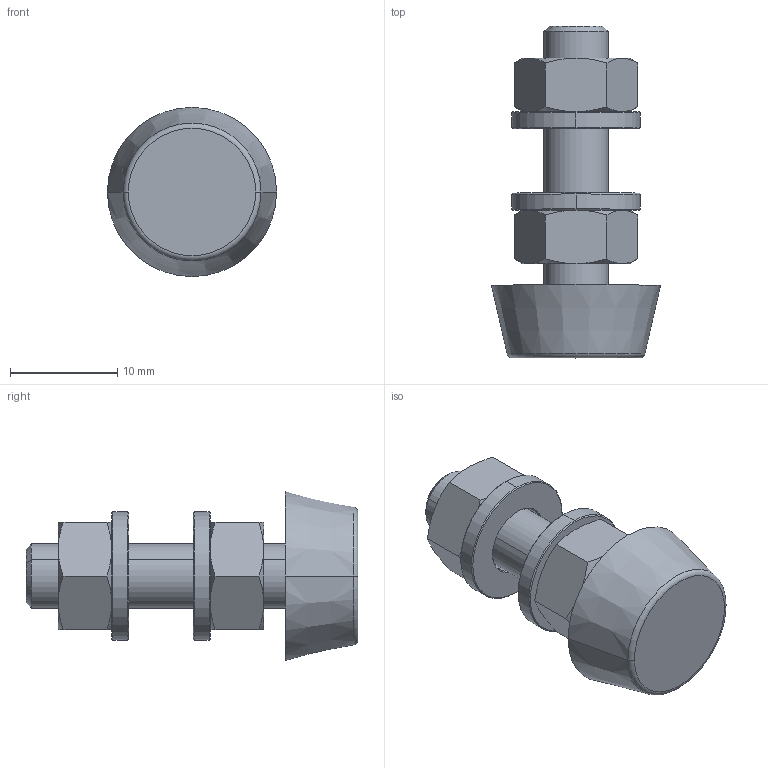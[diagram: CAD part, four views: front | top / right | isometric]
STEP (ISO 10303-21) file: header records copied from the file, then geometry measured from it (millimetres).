
FILE_DESCRIPTION (( 'STEP AP203' ), '1' );
FILE_NAME ('BAP-M6.STEP', '2012-11-29T15:42:09', ( 'Ricardo' ), ( '' ), 'SwSTEP 2.0', 'SolidWorks 2012', '' );
FILE_SCHEMA (( 'CONFIG_CONTROL_DESIGN' ));
Length unit declared in the file: millimetre
Products named in the file (5): 11.50001; BAP-M6; 12.50032; 20.20042; 17.50001
Assembly tree (6 placements, depth 2):
  BAP-M6
    20.20042
    12.50032
    11.50001  x2
    17.50001  x2
Bounding box: 15.8 x 31 x 15.8 mm (x, y, z)
Volume: 2711 mm3; surface area: 2740.9 mm2
Topology: 6 solids, 6 shells, 106 faces, 220 edges, 128 vertices
Faces by surface type: cone 54, plane 32, cylinder 14, torus 6
Entity records: 2393 total; most frequent: CARTESIAN_POINT 411, DIRECTION 324, ORIENTED_EDGE 272, AXIS2_PLACEMENT_3D 137, EDGE_CURVE 136, VERTEX_POINT 80, EDGE_LOOP 72, ADVANCED_FACE 66
